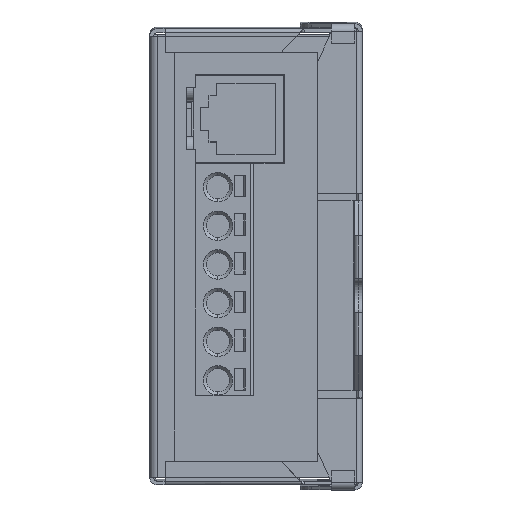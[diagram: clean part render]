
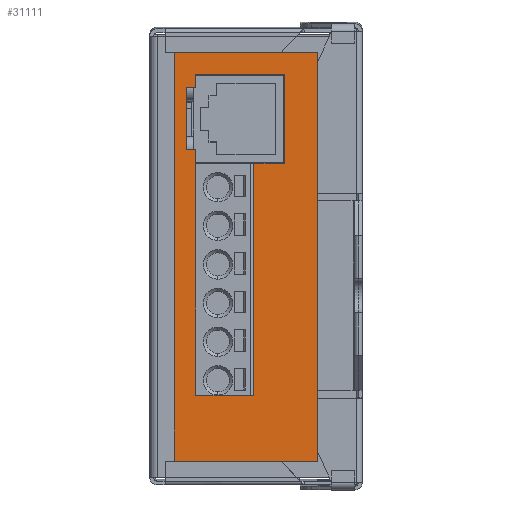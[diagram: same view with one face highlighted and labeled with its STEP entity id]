
A CAD part, left-side view. The second image highlights one B-rep face of the part: STEP entity #31111.
In plain terms, the highlighted planar face has unit normal (-1, 0, -0.002) as drawn and (0, 0, -1) by its records, which use the part's own axes.
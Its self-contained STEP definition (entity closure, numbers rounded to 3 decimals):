
#29998=DIRECTION('',(0.,-1.,0.));
#29999=VECTOR('',#29998,18.5);
#30000=CARTESIAN_POINT('',(26.4,5.75,-1.));
#30001=LINE('',#30000,#29999);
#30005=DIRECTION('',(1.,0.,0.));
#30006=VECTOR('',#30005,52.8);
#30007=CARTESIAN_POINT('',(-26.4,5.75,-1.));
#30008=LINE('',#30007,#30006);
#30012=DIRECTION('',(0.,1.,0.));
#30013=VECTOR('',#30012,18.5);
#30014=CARTESIAN_POINT('',(-26.4,-12.75,-1.));
#30015=LINE('',#30014,#30013);
#30019=DIRECTION('',(-1.,0.,0.));
#30020=VECTOR('',#30019,52.8);
#30021=CARTESIAN_POINT('',(26.4,-12.75,-1.));
#30022=LINE('',#30021,#30020);
#30026=DIRECTION('',(0.,-1.,0.));
#30027=VECTOR('',#30026,1.2);
#30028=CARTESIAN_POINT('',(21.9,-10.,-1.));
#30029=LINE('',#30028,#30027);
#30033=DIRECTION('',(-1.,0.,0.));
#30034=VECTOR('',#30033,8.);
#30035=CARTESIAN_POINT('',(21.9,-11.2,-1.));
#30036=LINE('',#30035,#30034);
#30040=DIRECTION('',(0.,1.,0.));
#30041=VECTOR('',#30040,1.2);
#30042=CARTESIAN_POINT('',(13.9,-11.2,-1.));
#30043=LINE('',#30042,#30041);
#30047=DIRECTION('',(-1.,0.,0.));
#30048=VECTOR('',#30047,31.8);
#30049=CARTESIAN_POINT('',(13.9,-10.,-1.));
#30050=LINE('',#30049,#30048);
#30054=DIRECTION('',(-1.,0.,0.));
#30055=VECTOR('',#30054,30.);
#30056=CARTESIAN_POINT('',(12.1,-2.5,-1.));
#30057=LINE('',#30056,#30055);
#30061=DIRECTION('',(0.,1.,0.));
#30062=VECTOR('',#30061,4.);
#30063=CARTESIAN_POINT('',(12.1,-2.5,-1.));
#30064=LINE('',#30063,#30062);
#30068=DIRECTION('',(-1.,0.,0.));
#30069=VECTOR('',#30068,1.7);
#30070=CARTESIAN_POINT('',(23.6,-10.,-1.));
#30071=LINE('',#30070,#30069);
#30096=DIRECTION('',(0.,-1.,0.));
#30097=VECTOR('',#30096,7.5);
#30098=CARTESIAN_POINT('',(-17.9,-2.5,-1.));
#30099=LINE('',#30098,#30097);
#30292=DIRECTION('',(0.,1.,0.));
#30293=VECTOR('',#30292,11.5);
#30294=CARTESIAN_POINT('',(23.6,-10.,-1.));
#30295=LINE('',#30294,#30293);
#30313=DIRECTION('',(-1.,0.,0.));
#30314=VECTOR('',#30313,11.5);
#30315=CARTESIAN_POINT('',(23.6,1.5,-1.));
#30316=LINE('',#30315,#30314);
#30752=CARTESIAN_POINT('',(26.4,5.75,-1.));
#30753=CARTESIAN_POINT('',(26.4,-12.75,-1.));
#30754=VERTEX_POINT('',#30752);
#30755=VERTEX_POINT('',#30753);
#30756=CARTESIAN_POINT('',(-26.4,-12.75,-1.));
#30757=VERTEX_POINT('',#30756);
#30758=CARTESIAN_POINT('',(-26.4,5.75,-1.));
#30759=VERTEX_POINT('',#30758);
#30769=CARTESIAN_POINT('',(-17.9,-2.5,-1.));
#30771=VERTEX_POINT('',#30769);
#30772=CARTESIAN_POINT('',(23.6,1.5,-1.));
#30774=VERTEX_POINT('',#30772);
#30802=CARTESIAN_POINT('',(23.6,-10.,-1.));
#30803=VERTEX_POINT('',#30802);
#30804=CARTESIAN_POINT('',(-17.9,-10.,-1.));
#30806=VERTEX_POINT('',#30804);
#30820=CARTESIAN_POINT('',(12.1,-2.5,-1.));
#30821=CARTESIAN_POINT('',(12.1,1.5,-1.));
#30822=VERTEX_POINT('',#30820);
#30823=VERTEX_POINT('',#30821);
#30868=CARTESIAN_POINT('',(21.9,-10.,-1.));
#30869=CARTESIAN_POINT('',(21.9,-11.2,-1.));
#30870=VERTEX_POINT('',#30868);
#30871=VERTEX_POINT('',#30869);
#30872=CARTESIAN_POINT('',(13.9,-11.2,-1.));
#30873=VERTEX_POINT('',#30872);
#30874=CARTESIAN_POINT('',(13.9,-10.,-1.));
#30875=VERTEX_POINT('',#30874);
#31080=CARTESIAN_POINT('',(0.,0.,-1.));
#31081=DIRECTION('',(0.,0.,-1.));
#31082=DIRECTION('',(-1.,0.,0.));
#31083=AXIS2_PLACEMENT_3D('',#31080,#31081,#31082);
#31084=PLANE('',#31083);
#31086=ORIENTED_EDGE('',*,*,#31085,.F.);
#31087=ORIENTED_EDGE('',*,*,#30909,.F.);
#31089=ORIENTED_EDGE('',*,*,#31088,.F.);
#31091=ORIENTED_EDGE('',*,*,#31090,.F.);
#31092=EDGE_LOOP('',(#31086,#31087,#31089,#31091));
#31093=FACE_OUTER_BOUND('',#31092,.F.);
#31094=ORIENTED_EDGE('',*,*,#30978,.T.);
#31095=ORIENTED_EDGE('',*,*,#31000,.T.);
#31096=ORIENTED_EDGE('',*,*,#31021,.T.);
#31097=ORIENTED_EDGE('',*,*,#31068,.T.);
#31099=ORIENTED_EDGE('',*,*,#31098,.F.);
#31101=ORIENTED_EDGE('',*,*,#31100,.F.);
#31103=ORIENTED_EDGE('',*,*,#31102,.T.);
#31105=ORIENTED_EDGE('',*,*,#31104,.F.);
#31107=ORIENTED_EDGE('',*,*,#31106,.F.);
#31108=ORIENTED_EDGE('',*,*,#31040,.T.);
#31109=EDGE_LOOP('',(#31094,#31095,#31096,#31097,#31099,#31101,#31103,#31105,
#31107,#31108));
#31110=FACE_BOUND('',#31109,.F.);
#31111=ADVANCED_FACE('',(#31093,#31110),#31084,.T.);
#30909=EDGE_CURVE('',#30759,#30754,#30008,.T.);
#30978=EDGE_CURVE('',#30870,#30871,#30029,.T.);
#31000=EDGE_CURVE('',#30871,#30873,#30036,.T.);
#31021=EDGE_CURVE('',#30873,#30875,#30043,.T.);
#31040=EDGE_CURVE('',#30803,#30870,#30071,.T.);
#31068=EDGE_CURVE('',#30875,#30806,#30050,.T.);
#31085=EDGE_CURVE('',#30754,#30755,#30001,.T.);
#31088=EDGE_CURVE('',#30757,#30759,#30015,.T.);
#31090=EDGE_CURVE('',#30755,#30757,#30022,.T.);
#31098=EDGE_CURVE('',#30771,#30806,#30099,.T.);
#31100=EDGE_CURVE('',#30822,#30771,#30057,.T.);
#31102=EDGE_CURVE('',#30822,#30823,#30064,.T.);
#31104=EDGE_CURVE('',#30774,#30823,#30316,.T.);
#31106=EDGE_CURVE('',#30803,#30774,#30295,.T.);
